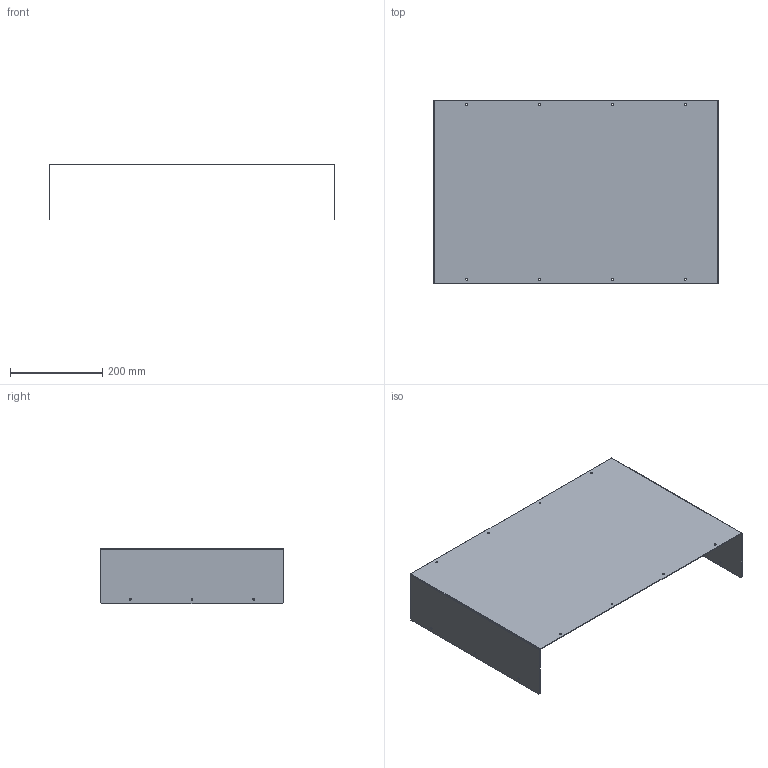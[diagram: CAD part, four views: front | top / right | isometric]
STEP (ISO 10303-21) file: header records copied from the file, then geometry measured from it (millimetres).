
FILE_DESCRIPTION (( 'STEP AP203' ), '1' );
FILE_NAME ('TCB_enclosure_cover_revB.STEP', '2022-10-23T23:15:02', ( '' ), ( '' ), 'SwSTEP 2.0', 'SolidWorks 2021', '' );
FILE_SCHEMA (( 'CONFIG_CONTROL_DESIGN' ));
Length unit declared in the file: millimetre
Products named in the file (1): TCB_enclosure_cover_revB
Bounding box: 619.6 x 398.16 x 120.57 mm (x, y, z)
Volume: 545174.1 mm3; surface area: 685681.2 mm2
Topology: 1 solids, 1 shells, 50 faces, 144 edges, 96 vertices
Faces by surface type: cylinder 36, plane 14
Entity records: 1813 total; most frequent: DIRECTION 318, CARTESIAN_POINT 291, ORIENTED_EDGE 288, EDGE_CURVE 144, AXIS2_PLACEMENT_3D 123, VERTEX_POINT 96, EDGE_LOOP 78, CIRCLE 72
